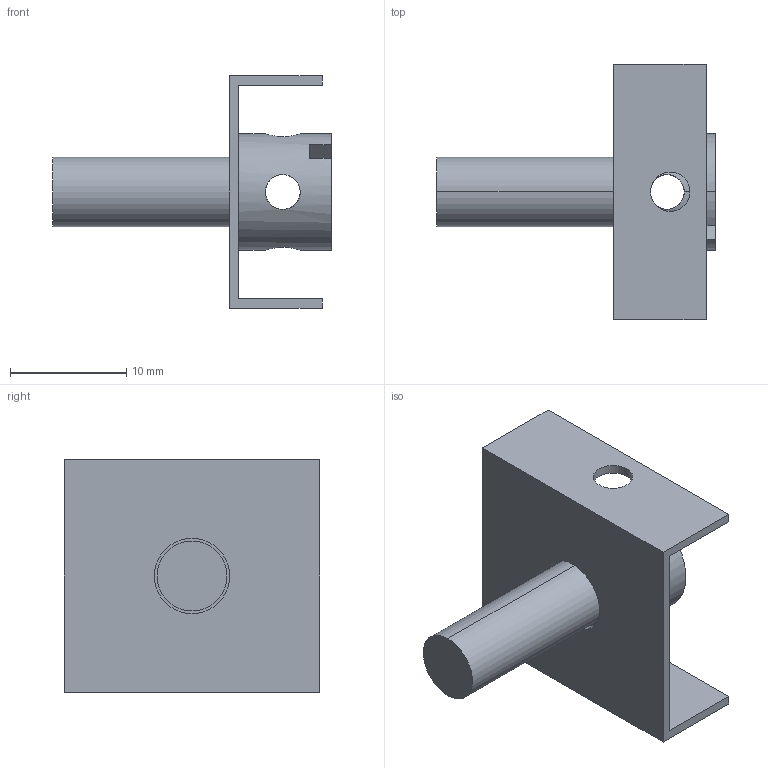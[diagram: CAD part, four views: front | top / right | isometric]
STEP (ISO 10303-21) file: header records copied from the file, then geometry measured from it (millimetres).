
FILE_DESCRIPTION (( 'STEP AP214' ), '1' );
FILE_NAME ('FO-00-VK Êîìïëåêò ïëîìáèðîâàíèÿ ïëàñòðîíà.STEP', '2025-09-30T11:02:07', ( '' ), ( '' ), 'SwSTEP 2.0', 'SolidWorks 2023', '' );
FILE_SCHEMA (( 'AUTOMOTIVE_DESIGN' ));
Length unit declared in the file: millimetre
Products named in the file (3): FO-00-VK Комплект пломбирования пластрона; Format_Скоба пломбы пластрона_пластроны; Format_Винт DIN404 М6x16
Assembly tree (2 placements, depth 2):
  FO-00-VK Комплект пломбирования пластрона
    Format_Скоба пломбы пластрона_пластроны
    Format_Винт DIN404 М6x16
Bounding box: 23.98 x 22 x 20 mm (x, y, z)
Volume: 1491.8 mm3; surface area: 2394.6 mm2
Topology: 2 solids, 2 shells, 33 faces, 96 edges, 64 vertices
Faces by surface type: plane 17, cylinder 16
Entity records: 1536 total; most frequent: CARTESIAN_POINT 568, ORIENTED_EDGE 192, DIRECTION 176, EDGE_CURVE 96, VERTEX_POINT 64, AXIS2_PLACEMENT_3D 62, LINE 52, VECTOR 52
